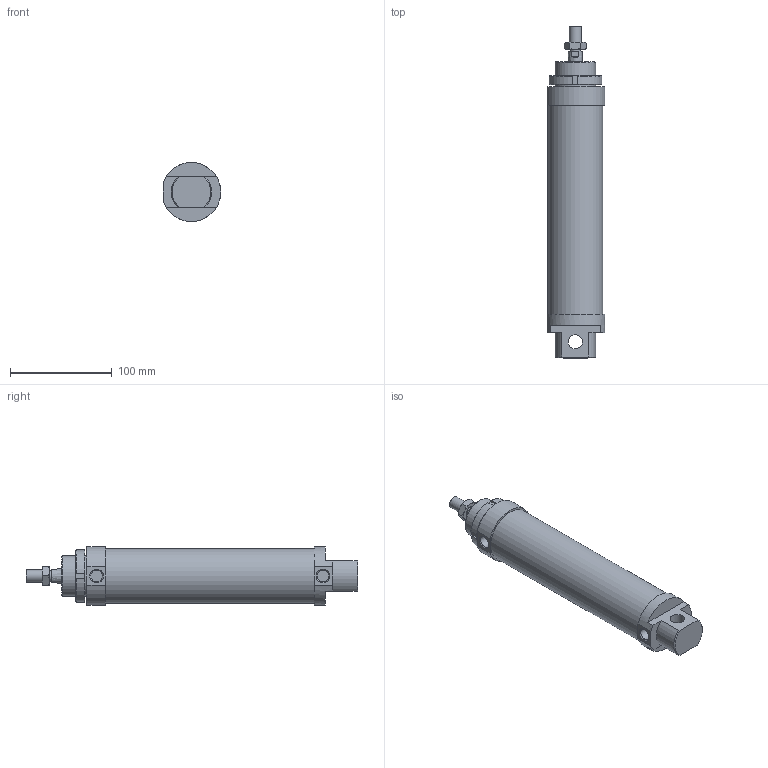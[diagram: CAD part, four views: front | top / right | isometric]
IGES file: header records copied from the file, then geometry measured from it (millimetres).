
Global section: file name: No Iges File Name specified; native system: AutoDesk Inventor R6.0; preprocessor: AutoDesk Inventor Iges Exporter R6.0; author: No Author specified; organization: No Organization specified; date: 20030402.144954; units: millimetre
Bounding box: 56.51 x 327 x 58 mm (x, y, z)
Surface area: 80222.8 mm2 (no closed solid volume)
Topology: 0 solids, 0 shells, 94 faces, 413 edges, 395 vertices
Faces by surface type: plane 44, revolution 39, bspline 11
